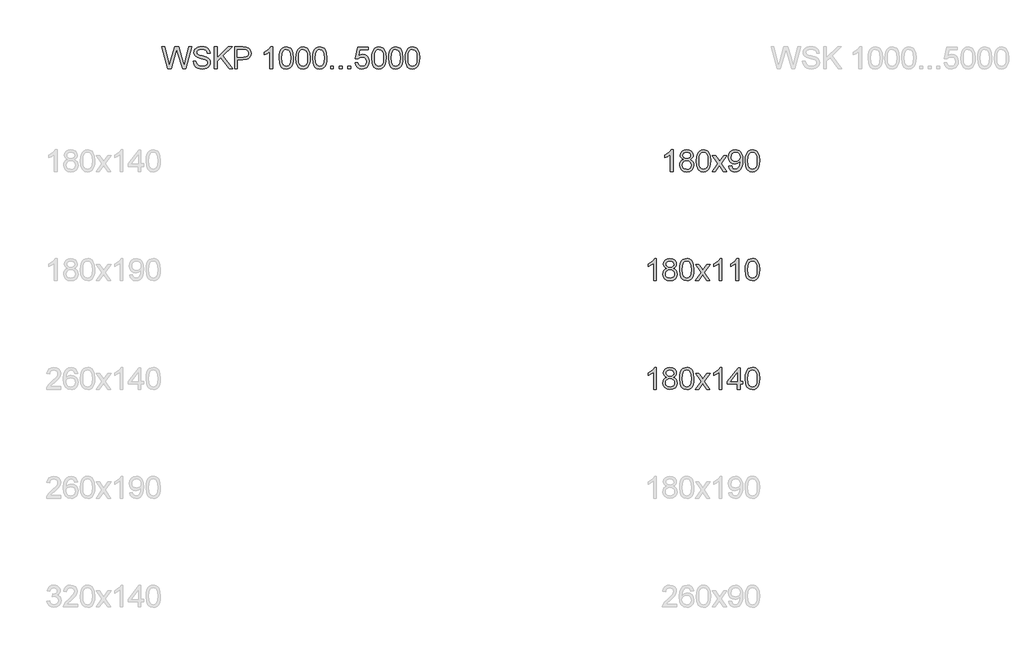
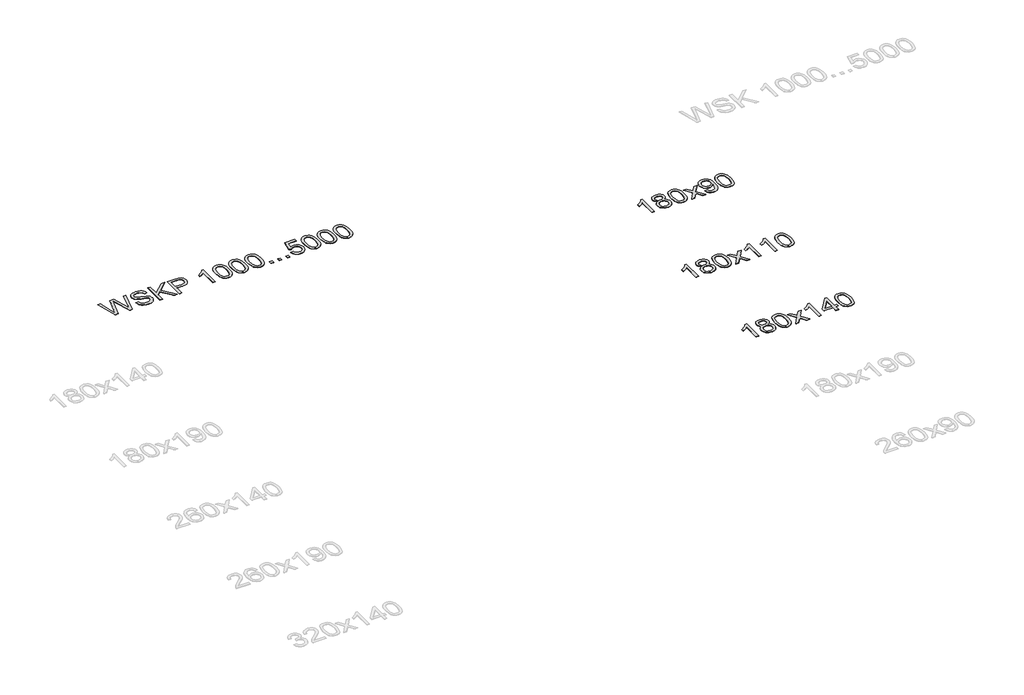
# One storey, part 16 of 17: 4 proxies.
"""IFC4 building model written with IfcOpenShell, lengths in millimetres."""

from ifc_helpers import new_model, si_unit, origin, origin_with_axes, place, context, project, spatial, polyline, outline, extrude, element, save

model = new_model("IFC4")

# Units and contexts
model_context = context("Model", 3, world=origin())
ifc_project = project(units=[si_unit("LENGTHUNIT", "METRE", prefix="MILLI")], contexts=[model_context])

# Site, building, storey
site = spatial("IfcSite", under=ifc_project)
building = spatial("IfcBuilding", under=site)
storey = spatial("IfcBuildingStorey", under=building, Name="Уровень 1", Elevation=0.0)

# Proxies
placement = place(None, origin())
element("IfcBuildingElementProxy", 1, Name="Текст модели 1", ObjectType="Текст модели 1", at=placement, inside=storey, context=model_context, shape_type="SweptSolid", body=[
    extrude(outline(polyline([(29868.1497282, 3491.7575298), (29813.3598364, 3692.6701501), (29839.2587288, 3692.6701501), (29871.0437332, 3560.6250392), (29880.8539197, 3519.8637142), (29891.3508193, 3555.9161497), (29931.1801767, 3692.6701501), (29968.5079365, 3692.6701501), (29997.4479867, 3593.5382151), (30018.9813462, 3519.8637142), (30028.4972271, 3559.4478169), (30060.5765371, 3692.6701501), (30086.4754296, 3692.6701501), (30031.6364868, 3491.7575298), (30004.8056266, 3491.7575298), (29956.6376107, 3646.7584771), (29949.917633, 3668.3899384), (29942.3637893, 3642.3438931), (29898.4632046, 3491.7575298), (29868.1497282, 3491.7575298)])), origin_with_axes(), (0.0, 0.0, 1.0), 2.0),
    extrude(outline(polyline([(30102.171728, 3560.821243), (30127.2858056, 3560.821243), (30135.3792095, 3535.68264), (30143.5094016, 3526.7921584), (30155.1467353, 3519.7901378), (30169.3715058, 3515.2467951), (30185.264008, 3513.7323476), (30211.506257, 3518.3186098), (30228.4533542, 3530.9246995), (30234.0206351, 3547.7736949), (30229.8513058, 3563.4454679), (30223.49921, 3569.6442795), (30212.7815813, 3574.8498097), (30176.2141109, 3584.4392671), (30136.8507374, 3596.8246276), (30124.348881, 3605.2736507), (30115.4890563, 3615.5130329), (30110.2099496, 3627.322045), (30108.4502474, 3640.4799577), (30110.6268826, 3655.1891061), (30117.156788, 3668.9049732), (30127.8682854, 3680.5300442), (30142.5896966, 3688.9668046), (30160.2602951, 3694.0987585), (30179.8193545, 3695.8094097), (30201.0093574, 3694.0190507), (30219.55061, 3688.6479736), (30234.7809246, 3679.806543), (30246.0381136, 3667.6051234), (30253.1627616, 3652.8040045), (30255.995453, 3636.1634756), (30230.8813754, 3636.1634756), (30226.2705877, 3651.1485355), (30216.6566049, 3661.9642662), (30201.6347568, 3668.5125657), (30180.8003731, 3670.6953322), (30159.4754802, 3668.5370912), (30144.8460395, 3662.0623681), (30136.3847536, 3652.5342244), (30133.564325, 3641.2157217), (30135.5631505, 3631.5649507), (30141.559627, 3623.8026406), (30155.7353465, 3616.8619336), (30182.5662067, 3609.7740738), (30227.0063517, 3597.1679841), (30241.3230927, 3588.0567734), (30251.3110889, 3576.811847), (30257.1788067, 3563.5558325), (30259.1347126, 3548.411357), (30256.8845011, 3532.9296564), (30250.1338665, 3518.3676607), (30239.1587203, 3505.8351474), (30224.234974, 3496.4418938), (30206.288464, 3490.574176), (30186.2450267, 3488.6182701), (30161.6398526, 3490.7274602), (30141.3879487, 3497.0550305), (30125.2563232, 3507.6255065), (30113.0119842, 3522.4634136), (30105.1515722, 3540.5386823), (30102.171728, 3560.821243)])), origin_with_axes(), (0.0, 0.0, 1.0), 2.0),
    extrude(outline(polyline([(30296.805829, 3491.7575298), (30296.805829, 3692.6701501), (30321.9199065, 3692.6701501), (30321.9199065, 3594.32303), (30424.9268651, 3692.6701501), (30460.0473329, 3692.6701501), (30373.5705386, 3610.0683794), (30463.1865926, 3491.7575298), (30432.4807088, 3491.7575298), (30355.76505, 3593.0967567), (30321.9199065, 3560.821243), (30321.9199065, 3491.7575298), (30296.805829, 3491.7575298)])), origin_with_axes(), (0.0, 0.0, 1.0), 2.0),
    extrude(outline(polyline([(30482.0221508, 3491.7575298), (30482.0221508, 3692.6701501), (30556.4814666, 3692.6701501), (30586.5006374, 3690.7571637), (30610.9034764, 3681.3639101), (30619.7755639, 3673.0375142), (30626.7224022, 3661.9397407), (30631.2105626, 3648.8492731), (30632.706616, 3634.5447948), (30628.6660454, 3610.8654571), (30616.5443337, 3591.1347194), (30606.8368475, 3583.3662779), (30593.8766714, 3577.8173912), (30558.1982493, 3573.3782817), (30507.1362283, 3573.3782817), (30507.1362283, 3491.7575298), (30482.0221508, 3491.7575298)]), holes=[polyline([(30507.1362283, 3598.4923593), (30559.6697772, 3598.4923593), (30581.9389007, 3600.7977531), (30596.6541805, 3607.7139346), (30604.857949, 3618.8117082), (30607.5925385, 3633.661878), (30605.9799891, 3644.9435925), (30601.1423408, 3654.4594735), (30593.6804677, 3661.6209097), (30584.1952436, 3665.8392899), (30559.081166, 3667.5560725), (30507.1362283, 3667.5560725), (30507.1362283, 3598.4923593)])]), origin_with_axes(), (0.0, 0.0, 1.0), 2.0),
    extrude(outline(polyline([(30830.4799766, 3491.7575298), (30805.3658991, 3491.7575298), (30805.3658991, 3648.3281069), (30781.5761967, 3631.3810097), (30755.137744, 3618.7013436), (30755.137744, 3642.441995), (30791.950469, 3665.9373917), (30805.4210814, 3679.5122374), (30814.2931688, 3692.6701501), (30830.4799766, 3692.6701501), (30830.4799766, 3491.7575298)])), origin_with_axes(), (0.0, 0.0, 1.0), 2.0),
    extrude(outline(polyline([(30890.1259108, 3590.5951591), (30891.9714521, 3622.7541769), (30897.5080761, 3648.4016833), (30906.6806006, 3667.9300859), (30919.4338431, 3681.7317921), (30935.8597741, 3689.9355606), (30956.0503643, 3692.6701501), (30971.5259336, 3691.0514693), (30985.3828221, 3686.1954269), (30996.9711049, 3678.2920954), (31005.6408573, 3667.531547), (31017.4130811, 3637.8066818), (31021.9748178, 3590.5951591), (31020.1476706, 3558.6200824), (31014.6662289, 3533.0338896), (31005.5488868, 3513.4870929), (30992.8140384, 3499.6302044), (30976.3513191, 3491.3712537), (30956.0503643, 3488.6182701), (30929.9552681, 3493.400736), (30910.1386913, 3507.7481338), (30901.3830998, 3522.8772809), (30895.1291059, 3541.7281674), (30890.1259108, 3590.5951591)]), holes=[polyline([(30915.2399883, 3590.6442101), (30918.1830443, 3551.1398151), (30927.0122122, 3528.2759491), (30940.1578621, 3517.368248), (30956.0503643, 3513.7323476), (30971.9428665, 3517.3805107), (30985.0885165, 3528.3250001), (30993.9176843, 3551.2011288), (30996.8607403, 3590.6442101), (30994.0157862, 3629.2595568), (30985.4809239, 3652.3012324), (30972.3597994, 3663.7423625), (30955.7560587, 3667.5560725), (30940.0352348, 3664.1960836), (30927.4046196, 3654.116117), (30918.2811461, 3629.6397015), (30915.2399883, 3590.6442101)])]), origin_with_axes(), (0.0, 0.0, 1.0), 2.0),
    extrude(outline(polyline([(31043.9496357, 3590.5951591), (31045.795177, 3622.7541769), (31051.3318011, 3648.4016833), (31060.5043255, 3667.9300859), (31073.257568, 3681.7317921), (31089.6834991, 3689.9355606), (31109.8740892, 3692.6701501), (31125.3496585, 3691.0514693), (31139.206547, 3686.1954269), (31150.7948298, 3678.2920954), (31159.4645822, 3667.531547), (31171.236806, 3637.8066818), (31175.7985428, 3590.5951591), (31173.9713955, 3558.6200824), (31168.4899538, 3533.0338896), (31159.3726117, 3513.4870929), (31146.6377633, 3499.6302044), (31130.175044, 3491.3712537), (31109.8740892, 3488.6182701), (31083.778993, 3493.400736), (31063.9624162, 3507.7481338), (31055.2068247, 3522.8772809), (31048.9528308, 3541.7281674), (31043.9496357, 3590.5951591)]), holes=[polyline([(31069.0637132, 3590.6442101), (31072.0067692, 3551.1398151), (31080.8359371, 3528.2759491), (31093.981587, 3517.368248), (31109.8740892, 3513.7323476), (31125.7665914, 3517.3805107), (31138.9122414, 3528.3250001), (31147.7414093, 3551.2011288), (31150.6844652, 3590.6442101), (31147.8395111, 3629.2595568), (31139.3046488, 3652.3012324), (31126.1835243, 3663.7423625), (31109.5797836, 3667.5560725), (31093.8589597, 3664.1960836), (31081.2283445, 3654.116117), (31072.1048711, 3629.6397015), (31069.0637132, 3590.6442101)])]), origin_with_axes(), (0.0, 0.0, 1.0), 2.0),
    extrude(outline(polyline([(31197.7733606, 3590.5951591), (31199.6189019, 3622.7541769), (31205.155526, 3648.4016833), (31214.3280504, 3667.9300859), (31227.0812929, 3681.7317921), (31243.507224, 3689.9355606), (31263.6978141, 3692.6701501), (31279.1733834, 3691.0514693), (31293.0302719, 3686.1954269), (31304.6185547, 3678.2920954), (31313.2883071, 3667.531547), (31325.0605309, 3637.8066818), (31329.6222677, 3590.5951591), (31327.7951204, 3558.6200824), (31322.3136787, 3533.0338896), (31313.1963366, 3513.4870929), (31300.4614882, 3499.6302044), (31283.9987689, 3491.3712537), (31263.6978141, 3488.6182701), (31237.602718, 3493.400736), (31217.7861411, 3507.7481338), (31209.0305497, 3522.8772809), (31202.7765557, 3541.7281674), (31197.7733606, 3590.5951591)]), holes=[polyline([(31222.8874381, 3590.6442101), (31225.8304941, 3551.1398151), (31234.659662, 3528.2759491), (31247.805312, 3517.368248), (31263.6978141, 3513.7323476), (31279.5903163, 3517.3805107), (31292.7359663, 3528.3250001), (31301.5651342, 3551.2011288), (31304.5081901, 3590.6442101), (31301.663236, 3629.2595568), (31293.1283738, 3652.3012324), (31280.0072493, 3663.7423625), (31263.4035085, 3667.5560725), (31247.6826846, 3664.1960836), (31235.0520695, 3654.116117), (31225.928596, 3629.6397015), (31222.8874381, 3590.6442101)])]), origin_with_axes(), (0.0, 0.0, 1.0), 2.0),
    extrude(outline(polyline([(31364.1541243, 3491.7575298), (31364.1541243, 3516.8716073), (31389.2682018, 3516.8716073), (31389.2682018, 3491.7575298), (31364.1541243, 3491.7575298)])), origin_with_axes(), (0.0, 0.0, 1.0), 2.0),
    extrude(outline(polyline([(31442.6356166, 3491.7575298), (31442.6356166, 3516.8716073), (31467.7496941, 3516.8716073), (31467.7496941, 3491.7575298), (31442.6356166, 3491.7575298)])), origin_with_axes(), (0.0, 0.0, 1.0), 2.0),
    extrude(outline(polyline([(31521.1171089, 3491.7575298), (31521.1171089, 3516.8716073), (31546.2311864, 3516.8716073), (31546.2311864, 3491.7575298), (31521.1171089, 3491.7575298)])), origin_with_axes(), (0.0, 0.0, 1.0), 2.0),
    extrude(outline(polyline([(31587.0415624, 3545.1249445), (31612.15564, 3548.2642042), (31616.7664276, 3533.1871738), (31624.8107806, 3522.3898372), (31636.2519107, 3515.89672), (31651.0530296, 3513.7323476), (31669.0547219, 3516.7428486), (31682.5437284, 3525.7743516), (31690.9682261, 3539.7845242), (31693.776392, 3557.7310342), (31691.1460357, 3574.6290805), (31683.2549669, 3587.5540013), (31670.0418719, 3595.7577698), (31651.4454371, 3598.4923593), (31629.3970428, 3594.1268263), (31615.2948997, 3582.7960608), (31590.1808221, 3585.9353205), (31612.15564, 3689.5308904), (31709.4726904, 3689.5308904), (31709.4726904, 3664.4168128), (31632.4627261, 3664.4168128), (31621.7205718, 3609.0873607), (31639.6609505, 3619.9766678), (31658.4597204, 3623.6064368), (31681.9244604, 3619.1060137), (31701.403812, 3605.6047445), (31714.5188051, 3585.0278783), (31718.8904695, 3559.3006641), (31714.9541322, 3534.1865865), (31703.1451201, 3512.702278), (31692.7095342, 3502.1655245), (31680.5326401, 3494.639272), (31666.614438, 3490.1235206), (31650.9549277, 3488.6182701), (31626.28844, 3492.4871624), (31606.63741, 3504.0938393), (31593.1667977, 3522.0894003), (31587.0415624, 3545.1249445)])), origin_with_axes(), (0.0, 0.0, 1.0), 2.0),
    extrude(outline(polyline([(31740.8652874, 3590.5951591), (31742.7108287, 3622.7541769), (31748.2474527, 3648.4016833), (31757.4199771, 3667.9300859), (31770.1732196, 3681.7317921), (31786.5991507, 3689.9355606), (31806.7897409, 3692.6701501), (31822.2653102, 3691.0514693), (31836.1221986, 3686.1954269), (31847.7104815, 3678.2920954), (31856.3802338, 3667.531547), (31868.1524577, 3637.8066818), (31872.7141944, 3590.5951591), (31870.8870472, 3558.6200824), (31865.4056055, 3533.0338896), (31856.2882633, 3513.4870929), (31843.5534149, 3499.6302044), (31827.0906957, 3491.3712537), (31806.7897409, 3488.6182701), (31780.6946447, 3493.400736), (31760.8780679, 3507.7481338), (31752.1224764, 3522.8772809), (31745.8684825, 3541.7281674), (31740.8652874, 3590.5951591)]), holes=[polyline([(31765.9793649, 3590.6442101), (31768.9224209, 3551.1398151), (31777.7515887, 3528.2759491), (31790.8972387, 3517.368248), (31806.7897409, 3513.7323476), (31822.6822431, 3517.3805107), (31835.827893, 3528.3250001), (31844.6570609, 3551.2011288), (31847.6001169, 3590.6442101), (31844.7551628, 3629.2595568), (31836.2203005, 3652.3012324), (31823.099176, 3663.7423625), (31806.4954353, 3667.5560725), (31790.7746114, 3664.1960836), (31778.1439962, 3654.116117), (31769.0205227, 3629.6397015), (31765.9793649, 3590.6442101)])]), origin_with_axes(), (0.0, 0.0, 1.0), 2.0),
    extrude(outline(polyline([(31894.6890123, 3590.5951591), (31896.5345536, 3622.7541769), (31902.0711776, 3648.4016833), (31911.2437021, 3667.9300859), (31923.9969446, 3681.7317921), (31940.4228756, 3689.9355606), (31960.6134658, 3692.6701501), (31976.0890351, 3691.0514693), (31989.9459236, 3686.1954269), (32001.5342064, 3678.2920954), (32010.2039588, 3667.531547), (32021.9761826, 3637.8066818), (32026.5379193, 3590.5951591), (32024.7107721, 3558.6200824), (32019.2293304, 3533.0338896), (32010.1119883, 3513.4870929), (31997.3771399, 3499.6302044), (31980.9144206, 3491.3712537), (31960.6134658, 3488.6182701), (31934.5183696, 3493.400736), (31914.7017928, 3507.7481338), (31905.9462013, 3522.8772809), (31899.6922074, 3541.7281674), (31894.6890123, 3590.5951591)]), holes=[polyline([(31919.8030898, 3590.6442101), (31922.7461458, 3551.1398151), (31931.5753137, 3528.2759491), (31944.7209636, 3517.368248), (31960.6134658, 3513.7323476), (31976.505968, 3517.3805107), (31989.651618, 3528.3250001), (31998.4807858, 3551.2011288), (32001.4238418, 3590.6442101), (31998.5788877, 3629.2595568), (31990.0440254, 3652.3012324), (31976.9229009, 3663.7423625), (31960.3191602, 3667.5560725), (31944.5983363, 3664.1960836), (31931.9677211, 3654.116117), (31922.8442476, 3629.6397015), (31919.8030898, 3590.6442101)])]), origin_with_axes(), (0.0, 0.0, 1.0), 2.0),
    extrude(outline(polyline([(32048.5127372, 3590.5951591), (32050.3582785, 3622.7541769), (32055.8949026, 3648.4016833), (32065.067427, 3667.9300859), (32077.8206695, 3681.7317921), (32094.2466006, 3689.9355606), (32114.4371907, 3692.6701501), (32129.91276, 3691.0514693), (32143.7696485, 3686.1954269), (32155.3579313, 3678.2920954), (32164.0276837, 3667.531547), (32175.7999075, 3637.8066818), (32180.3616443, 3590.5951591), (32178.534497, 3558.6200824), (32173.0530553, 3533.0338896), (32163.9357132, 3513.4870929), (32151.2008648, 3499.6302044), (32134.7381455, 3491.3712537), (32114.4371907, 3488.6182701), (32088.3420945, 3493.400736), (32068.5255177, 3507.7481338), (32059.7699262, 3522.8772809), (32053.5159323, 3541.7281674), (32048.5127372, 3590.5951591)]), holes=[polyline([(32073.6268147, 3590.6442101), (32076.5698707, 3551.1398151), (32085.3990386, 3528.2759491), (32098.5446885, 3517.368248), (32114.4371907, 3513.7323476), (32130.3296929, 3517.3805107), (32143.4753429, 3528.3250001), (32152.3045108, 3551.2011288), (32155.2475667, 3590.6442101), (32152.4026126, 3629.2595568), (32143.8677503, 3652.3012324), (32130.7466258, 3663.7423625), (32114.1428851, 3667.5560725), (32098.4220612, 3664.1960836), (32085.791446, 3654.116117), (32076.6679726, 3629.6397015), (32073.6268147, 3590.6442101)])]), origin_with_axes(), (0.0, 0.0, 1.0), 2.0),
])
element("IfcBuildingElementProxy", 2, Name="Текст модели 1", ObjectType="Текст модели 1", at=placement, inside=storey, context=model_context, shape_type="SweptSolid", body=[
    extrude(outline(polyline([(34352.7463706, 546.7575298), (34327.632293, 546.7575298), (34327.632293, 703.3281069), (34303.8425907, 686.3810097), (34277.4041379, 673.7013436), (34277.4041379, 697.441995), (34314.2168629, 720.9373917), (34327.6874753, 734.5122374), (34336.5595628, 747.6701501), (34352.7463706, 747.6701501), (34352.7463706, 546.7575298)])), origin_with_axes(), (0.0, 0.0, 1.0), 2.0),
    extrude(outline(polyline([(34448.9843005, 657.4164339), (34435.5382136, 664.0383098), (34426.1020404, 673.0146305), (34420.5286282, 684.161455), (34418.6708241, 697.2948422), (34422.717526, 716.927478), (34434.8576319, 733.151074), (34453.7299782, 744.040381), (34477.9734017, 747.6701501), (34502.363978, 743.9545419), (34521.481579, 732.8077174), (34533.842414, 716.3266041), (34537.9626924, 696.6081291), (34536.1294138, 683.8978062), (34530.629578, 672.9410541), (34521.4018712, 664.0199157), (34508.38498, 657.4164339), (34523.8421551, 649.4517887), (34535.0932128, 637.7224844), (34541.954212, 622.7926068), (34544.2412118, 605.2262415), (34539.7040005, 581.21581), (34526.0923667, 561.3747077), (34505.074042, 548.0573795), (34478.3167582, 543.6182701), (34451.5594745, 548.0757736), (34430.5411498, 561.4482841), (34416.929516, 581.4794587), (34412.3923047, 605.9129546), (34414.7712749, 624.1599015), (34421.9081856, 639.1694869), (34433.4351548, 650.426676), (34448.9843005, 657.4164339)]), holes=[polyline([(34443.7849016, 696.5590782), (34446.0105877, 685.5961947), (34452.6876459, 676.8406032), (34463.6198725, 671.1016441), (34478.6110638, 669.1886577), (34493.2527672, 671.0893814), (34504.019447, 676.7915523), (34510.6413229, 685.2528382), (34512.8486149, 695.4309067), (34510.5677465, 705.9952514), (34503.7251414, 714.7324487), (34492.8113088, 720.6001666), (34478.3167582, 722.5560725), (34463.7302371, 720.6430861), (34452.8347987, 714.904127), (34446.0473759, 706.4918921), (34443.7849016, 696.5590782)]), polyline([(34437.5063822, 606.7958714), (34441.700237, 587.8867368), (34447.5066411, 579.7749388), (34456.5381441, 573.7355427), (34478.512962, 568.7323476), (34495.607212, 571.3627039), (34508.4340309, 579.2537727), (34516.4538584, 591.2038061), (34519.1271342, 606.0110564), (34516.3680193, 621.0696928), (34508.0906744, 633.283375), (34494.9695499, 641.3767789), (34477.6790961, 644.0745802), (34460.8239694, 641.4135671), (34448.1259092, 633.4305278), (34440.161264, 621.4498375), (34437.5063822, 606.7958714)])]), origin_with_axes(), (0.0, 0.0, 1.0), 2.0),
    extrude(outline(polyline([(34566.2160296, 645.5951591), (34568.061571, 677.7541769), (34573.598195, 703.4016833), (34582.7707194, 722.9300859), (34595.5239619, 736.7317921), (34611.949893, 744.9355606), (34632.1404832, 747.6701501), (34647.6160524, 746.0514693), (34661.4729409, 741.1954269), (34673.0612238, 733.2920954), (34681.7309761, 722.531547), (34693.5032, 692.8066818), (34698.0649367, 645.5951591), (34696.2377894, 613.6200824), (34690.7563477, 588.0338896), (34681.6390056, 568.4870929), (34668.9041572, 554.6302044), (34652.4414379, 546.3712537), (34632.1404832, 543.6182701), (34606.045387, 548.400736), (34586.2288102, 562.7481338), (34577.4732187, 577.8772809), (34571.2192248, 596.7281674), (34566.2160296, 645.5951591)]), holes=[polyline([(34591.3301072, 645.6442101), (34594.2731631, 606.1398151), (34603.102331, 583.2759491), (34616.247981, 572.368248), (34632.1404832, 568.7323476), (34648.0329853, 572.3805107), (34661.1786353, 583.3250001), (34670.0078032, 606.2011288), (34672.9508592, 645.6442101), (34670.1059051, 684.2595568), (34661.5710428, 707.3012324), (34648.4499183, 718.7423625), (34631.8461776, 722.5560725), (34616.1253536, 719.1960836), (34603.4947385, 709.116117), (34594.371265, 684.6397015), (34591.3301072, 645.6442101)])]), origin_with_axes(), (0.0, 0.0, 1.0), 2.0),
    extrude(outline(polyline([(34710.6219755, 546.7575298), (34764.2836958, 620.92254), (34713.7612352, 694.3027353), (34743.9766097, 694.3027353), (34768.3549232, 658.9860637), (34779.7347396, 642.3087466), (34789.5939771, 655.9449059), (34817.356805, 694.3027353), (34847.5721795, 694.3027353), (34794.4990704, 620.92254), (34845.6101422, 546.7575298), (34815.3947677, 546.7575298), (34784.6398329, 591.3448276), (34778.9989756, 599.4872824), (34740.83735, 546.7575298), (34710.6219755, 546.7575298)])), origin_with_axes(), (0.0, 0.0, 1.0), 2.0),
    extrude(outline(polyline([(34955.4842314, 546.7575298), (34930.3701539, 546.7575298), (34930.3701539, 703.3281069), (34906.5804516, 686.3810097), (34880.1419988, 673.7013436), (34880.1419988, 697.441995), (34916.9547238, 720.9373917), (34930.4253362, 734.5122374), (34939.2974237, 747.6701501), (34955.4842314, 747.6701501), (34955.4842314, 546.7575298)])), origin_with_axes(), (0.0, 0.0, 1.0), 2.0),
    extrude(outline(polyline([(35096.7509176, 546.7575298), (35096.7509176, 593.8464251), (35005.7123865, 593.8464251), (35005.7123865, 618.9605027), (35103.029437, 744.5308904), (35121.8649951, 744.5308904), (35121.8649951, 618.9605027), (35146.9790727, 618.9605027), (35146.9790727, 593.8464251), (35121.8649951, 593.8464251), (35121.8649951, 546.7575298), (35096.7509176, 546.7575298)]), holes=[polyline([(35096.7509176, 618.9605027), (35096.7509176, 696.5590782), (35036.6144741, 618.9605027), (35096.7509176, 618.9605027)])]), origin_with_axes(), (0.0, 0.0, 1.0), 2.0),
    extrude(outline(polyline([(35168.9538905, 645.5951591), (35170.7994319, 677.7541769), (35176.3360559, 703.4016833), (35185.5085803, 722.9300859), (35198.2618228, 736.7317921), (35214.6877539, 744.9355606), (35234.8783441, 747.6701501), (35250.3539133, 746.0514693), (35264.2108018, 741.1954269), (35275.7990847, 733.2920954), (35284.468837, 722.531547), (35296.2410608, 692.8066818), (35300.8027976, 645.5951591), (35298.9756503, 613.6200824), (35293.4942086, 588.0338896), (35284.3768665, 568.4870929), (35271.6420181, 554.6302044), (35255.1792988, 546.3712537), (35234.8783441, 543.6182701), (35208.7832479, 548.400736), (35188.9666711, 562.7481338), (35180.2110796, 577.8772809), (35173.9570857, 596.7281674), (35168.9538905, 645.5951591)]), holes=[polyline([(35194.0679681, 645.6442101), (35197.011024, 606.1398151), (35205.8401919, 583.2759491), (35218.9858419, 572.368248), (35234.8783441, 568.7323476), (35250.7708462, 572.3805107), (35263.9164962, 583.3250001), (35272.7456641, 606.2011288), (35275.6887201, 645.6442101), (35272.843766, 684.2595568), (35264.3089037, 707.3012324), (35251.1877792, 718.7423625), (35234.5840385, 722.5560725), (35218.8632145, 719.1960836), (35206.2325994, 709.116117), (35197.1091259, 684.6397015), (35194.0679681, 645.6442101)])]), origin_with_axes(), (0.0, 0.0, 1.0), 2.0),
])
element("IfcBuildingElementProxy", 3, Name="Текст модели 1", ObjectType="Текст модели 1", at=placement, inside=storey, context=model_context, shape_type="SweptSolid", body=[
    extrude(outline(polyline([(34506.5700955, 2546.7575298), (34481.4560179, 2546.7575298), (34481.4560179, 2703.3281069), (34457.6663156, 2686.3810097), (34431.2278629, 2673.7013436), (34431.2278629, 2697.441995), (34468.0405878, 2720.9373917), (34481.5112002, 2734.5122374), (34490.3832877, 2747.6701501), (34506.5700955, 2747.6701501), (34506.5700955, 2546.7575298)])), origin_with_axes(), (0.0, 0.0, 1.0), 2.0),
    extrude(outline(polyline([(34602.8080254, 2657.4164339), (34589.3619385, 2664.0383098), (34579.9257653, 2673.0146305), (34574.3523531, 2684.161455), (34572.494549, 2697.2948422), (34576.541251, 2716.927478), (34588.6813568, 2733.151074), (34607.5537031, 2744.040381), (34631.7971266, 2747.6701501), (34656.1877029, 2743.9545419), (34675.3053039, 2732.8077174), (34687.666139, 2716.3266041), (34691.7864173, 2696.6081291), (34689.9531387, 2683.8978062), (34684.4533029, 2672.9410541), (34675.2255962, 2664.0199157), (34662.2087049, 2657.4164339), (34677.6658801, 2649.4517887), (34688.9169377, 2637.7224844), (34695.777937, 2622.7926068), (34698.0649367, 2605.2262415), (34693.5277254, 2581.21581), (34679.9160916, 2561.3747077), (34658.8977669, 2548.0573795), (34632.1404832, 2543.6182701), (34605.3831994, 2548.0757736), (34584.3648747, 2561.4482841), (34570.7532409, 2581.4794587), (34566.2160296, 2605.9129546), (34568.5949999, 2624.1599015), (34575.7319106, 2639.1694869), (34587.2588797, 2650.426676), (34602.8080254, 2657.4164339)]), holes=[polyline([(34597.6086265, 2696.5590782), (34599.8343126, 2685.5961947), (34606.5113708, 2676.8406032), (34617.4435974, 2671.1016441), (34632.4347888, 2669.1886577), (34647.0764922, 2671.0893814), (34657.8431719, 2676.7915523), (34664.4650478, 2685.2528382), (34666.6723398, 2695.4309067), (34664.3914714, 2705.9952514), (34657.5488663, 2714.7324487), (34646.6350338, 2720.6001666), (34632.1404832, 2722.5560725), (34617.553962, 2720.6430861), (34606.6585236, 2714.904127), (34599.8711008, 2706.4918921), (34597.6086265, 2696.5590782)]), polyline([(34591.3301072, 2606.7958714), (34595.5239619, 2587.8867368), (34601.3303661, 2579.7749388), (34610.361869, 2573.7355427), (34632.3366869, 2568.7323476), (34649.4309369, 2571.3627039), (34662.2577558, 2579.2537727), (34670.2775833, 2591.2038061), (34672.9508592, 2606.0110564), (34670.1917442, 2621.0696928), (34661.9143993, 2633.283375), (34648.7932748, 2641.3767789), (34631.502821, 2644.0745802), (34614.6476943, 2641.4135671), (34601.9496341, 2633.4305278), (34593.9849889, 2621.4498375), (34591.3301072, 2606.7958714)])]), origin_with_axes(), (0.0, 0.0, 1.0), 2.0),
    extrude(outline(polyline([(34720.0397545, 2645.5951591), (34721.8852959, 2677.7541769), (34727.4219199, 2703.4016833), (34736.5944443, 2722.9300859), (34749.3476868, 2736.7317921), (34765.7736179, 2744.9355606), (34785.9642081, 2747.6701501), (34801.4397773, 2746.0514693), (34815.2966658, 2741.1954269), (34826.8849487, 2733.2920954), (34835.554701, 2722.531547), (34847.3269249, 2692.8066818), (34851.8886616, 2645.5951591), (34850.0615144, 2613.6200824), (34844.5800726, 2588.0338896), (34835.4627305, 2568.4870929), (34822.7278821, 2554.6302044), (34806.2651628, 2546.3712537), (34785.9642081, 2543.6182701), (34759.8691119, 2548.400736), (34740.0525351, 2562.7481338), (34731.2969436, 2577.8772809), (34725.0429497, 2596.7281674), (34720.0397545, 2645.5951591)]), holes=[polyline([(34745.1538321, 2645.6442101), (34748.096888, 2606.1398151), (34756.9260559, 2583.2759491), (34770.0717059, 2572.368248), (34785.9642081, 2568.7323476), (34801.8567103, 2572.3805107), (34815.0023602, 2583.3250001), (34823.8315281, 2606.2011288), (34826.7745841, 2645.6442101), (34823.92963, 2684.2595568), (34815.3947677, 2707.3012324), (34802.2736432, 2718.7423625), (34785.6699025, 2722.5560725), (34769.9490785, 2719.1960836), (34757.3184634, 2709.116117), (34748.1949899, 2684.6397015), (34745.1538321, 2645.6442101)])]), origin_with_axes(), (0.0, 0.0, 1.0), 2.0),
    extrude(outline(polyline([(34864.4457004, 2546.7575298), (34918.1074207, 2620.92254), (34867.5849601, 2694.3027353), (34897.8003346, 2694.3027353), (34922.1786482, 2658.9860637), (34933.5584645, 2642.3087466), (34943.417702, 2655.9449059), (34971.1805299, 2694.3027353), (35001.3959044, 2694.3027353), (34948.3227953, 2620.92254), (34999.4338671, 2546.7575298), (34969.2184926, 2546.7575298), (34938.4635578, 2591.3448276), (34932.8227005, 2599.4872824), (34894.6610749, 2546.7575298), (34864.4457004, 2546.7575298)])), origin_with_axes(), (0.0, 0.0, 1.0), 2.0),
    extrude(outline(polyline([(35018.2694253, 2596.9856848), (35043.3835028, 2600.1249445), (35047.6754594, 2585.8695172), (35054.6652173, 2576.1635639), (35064.1810983, 2570.5901517), (35076.051424, 2568.7323476), (35096.3830356, 2573.5148135), (35110.1663477, 2586.2925815), (35118.3823789, 2608.1202465), (35122.0121479, 2637.2565006), (35121.8649951, 2642.1615938), (35113.1645859, 2631.5420669), (35101.7786382, 2623.129832), (35088.528755, 2617.6483902), (35074.2365395, 2615.821243), (35051.3358853, 2620.2848779), (35032.2734666, 2633.6757825), (35019.4159908, 2654.3630133), (35015.1301656, 2680.7156269), (35019.6244573, 2707.9388946), (35033.1073324, 2729.2760503), (35053.3592363, 2743.0716251), (35078.1606141, 2747.6701501), (35096.891939, 2745.0459252), (35113.9432695, 2737.1732505), (35128.2048282, 2724.4445334), (35138.5668377, 2707.2521815), (35144.8760139, 2683.4870046), (35146.9790727, 2651.0398127), (35144.8821453, 2616.6367147), (35138.5913632, 2590.0449779), (35128.1619086, 2570.0628541), (35113.6489639, 2555.4885958), (35095.6779284, 2546.5858515), (35074.8742016, 2543.6182701), (35053.4021558, 2547.1192804), (35036.2711176, 2557.6223113), (35024.2904273, 2574.4651754), (35018.2694253, 2596.9856848)]), holes=[polyline([(35121.8649951, 2681.3042381), (35119.1549311, 2698.3249118), (35111.024739, 2711.4215108), (35098.4063866, 2719.7724321), (35082.2318415, 2722.5560725), (35065.4564225, 2719.5578343), (35052.016467, 2710.5631195), (35043.1872991, 2696.7982015), (35040.2442431, 2679.4893536), (35043.0278836, 2663.9708648), (35051.3788049, 2651.6529493), (35064.4876666, 2643.6147277), (35081.5451285, 2640.9353205), (35097.5909148, 2643.6147277), (35110.5097042, 2651.6529493), (35119.0261724, 2664.4245859), (35121.8649951, 2681.3042381)])]), origin_with_axes(), (0.0, 0.0, 1.0), 2.0),
    extrude(outline(polyline([(35168.9538905, 2645.5951591), (35170.7994319, 2677.7541769), (35176.3360559, 2703.4016833), (35185.5085803, 2722.9300859), (35198.2618228, 2736.7317921), (35214.6877539, 2744.9355606), (35234.8783441, 2747.6701501), (35250.3539133, 2746.0514693), (35264.2108018, 2741.1954269), (35275.7990847, 2733.2920954), (35284.468837, 2722.531547), (35296.2410608, 2692.8066818), (35300.8027976, 2645.5951591), (35298.9756503, 2613.6200824), (35293.4942086, 2588.0338896), (35284.3768665, 2568.4870929), (35271.6420181, 2554.6302044), (35255.1792988, 2546.3712537), (35234.8783441, 2543.6182701), (35208.7832479, 2548.400736), (35188.9666711, 2562.7481338), (35180.2110796, 2577.8772809), (35173.9570857, 2596.7281674), (35168.9538905, 2645.5951591)]), holes=[polyline([(35194.0679681, 2645.6442101), (35197.011024, 2606.1398151), (35205.8401919, 2583.2759491), (35218.9858419, 2572.368248), (35234.8783441, 2568.7323476), (35250.7708462, 2572.3805107), (35263.9164962, 2583.3250001), (35272.7456641, 2606.2011288), (35275.6887201, 2645.6442101), (35272.843766, 2684.2595568), (35264.3089037, 2707.3012324), (35251.1877792, 2718.7423625), (35234.5840385, 2722.5560725), (35218.8632145, 2719.1960836), (35206.2325994, 2709.116117), (35197.1091259, 2684.6397015), (35194.0679681, 2645.6442101)])]), origin_with_axes(), (0.0, 0.0, 1.0), 2.0),
])
element("IfcBuildingElementProxy", 4, Name="Текст модели 1", ObjectType="Текст модели 1", at=placement, inside=storey, context=model_context, shape_type="SweptSolid", body=[
    extrude(outline(polyline([(34352.7463706, 1546.7575298), (34327.632293, 1546.7575298), (34327.632293, 1703.3281069), (34303.8425907, 1686.3810097), (34277.4041379, 1673.7013436), (34277.4041379, 1697.441995), (34314.2168629, 1720.9373917), (34327.6874753, 1734.5122374), (34336.5595628, 1747.6701501), (34352.7463706, 1747.6701501), (34352.7463706, 1546.7575298)])), origin_with_axes(), (0.0, 0.0, 1.0), 2.0),
    extrude(outline(polyline([(34448.9843005, 1657.4164339), (34435.5382136, 1664.0383098), (34426.1020404, 1673.0146305), (34420.5286282, 1684.161455), (34418.6708241, 1697.2948422), (34422.717526, 1716.927478), (34434.8576319, 1733.151074), (34453.7299782, 1744.040381), (34477.9734017, 1747.6701501), (34502.363978, 1743.9545419), (34521.481579, 1732.8077174), (34533.842414, 1716.3266041), (34537.9626924, 1696.6081291), (34536.1294138, 1683.8978062), (34530.629578, 1672.9410541), (34521.4018712, 1664.0199157), (34508.38498, 1657.4164339), (34523.8421551, 1649.4517887), (34535.0932128, 1637.7224844), (34541.954212, 1622.7926068), (34544.2412118, 1605.2262415), (34539.7040005, 1581.21581), (34526.0923667, 1561.3747077), (34505.074042, 1548.0573795), (34478.3167582, 1543.6182701), (34451.5594745, 1548.0757736), (34430.5411498, 1561.4482841), (34416.929516, 1581.4794587), (34412.3923047, 1605.9129546), (34414.7712749, 1624.1599015), (34421.9081856, 1639.1694869), (34433.4351548, 1650.426676), (34448.9843005, 1657.4164339)]), holes=[polyline([(34443.7849016, 1696.5590782), (34446.0105877, 1685.5961947), (34452.6876459, 1676.8406032), (34463.6198725, 1671.1016441), (34478.6110638, 1669.1886577), (34493.2527672, 1671.0893814), (34504.019447, 1676.7915523), (34510.6413229, 1685.2528382), (34512.8486149, 1695.4309067), (34510.5677465, 1705.9952514), (34503.7251414, 1714.7324487), (34492.8113088, 1720.6001666), (34478.3167582, 1722.5560725), (34463.7302371, 1720.6430861), (34452.8347987, 1714.904127), (34446.0473759, 1706.4918921), (34443.7849016, 1696.5590782)]), polyline([(34437.5063822, 1606.7958714), (34441.700237, 1587.8867368), (34447.5066411, 1579.7749388), (34456.5381441, 1573.7355427), (34478.512962, 1568.7323476), (34495.607212, 1571.3627039), (34508.4340309, 1579.2537727), (34516.4538584, 1591.2038061), (34519.1271342, 1606.0110564), (34516.3680193, 1621.0696928), (34508.0906744, 1633.283375), (34494.9695499, 1641.3767789), (34477.6790961, 1644.0745802), (34460.8239694, 1641.4135671), (34448.1259092, 1633.4305278), (34440.161264, 1621.4498375), (34437.5063822, 1606.7958714)])]), origin_with_axes(), (0.0, 0.0, 1.0), 2.0),
    extrude(outline(polyline([(34566.2160296, 1645.5951591), (34568.061571, 1677.7541769), (34573.598195, 1703.4016833), (34582.7707194, 1722.9300859), (34595.5239619, 1736.7317921), (34611.949893, 1744.9355606), (34632.1404832, 1747.6701501), (34647.6160524, 1746.0514693), (34661.4729409, 1741.1954269), (34673.0612238, 1733.2920954), (34681.7309761, 1722.531547), (34693.5032, 1692.8066818), (34698.0649367, 1645.5951591), (34696.2377894, 1613.6200824), (34690.7563477, 1588.0338896), (34681.6390056, 1568.4870929), (34668.9041572, 1554.6302044), (34652.4414379, 1546.3712537), (34632.1404832, 1543.6182701), (34606.045387, 1548.400736), (34586.2288102, 1562.7481338), (34577.4732187, 1577.8772809), (34571.2192248, 1596.7281674), (34566.2160296, 1645.5951591)]), holes=[polyline([(34591.3301072, 1645.6442101), (34594.2731631, 1606.1398151), (34603.102331, 1583.2759491), (34616.247981, 1572.368248), (34632.1404832, 1568.7323476), (34648.0329853, 1572.3805107), (34661.1786353, 1583.3250001), (34670.0078032, 1606.2011288), (34672.9508592, 1645.6442101), (34670.1059051, 1684.2595568), (34661.5710428, 1707.3012324), (34648.4499183, 1718.7423625), (34631.8461776, 1722.5560725), (34616.1253536, 1719.1960836), (34603.4947385, 1709.116117), (34594.371265, 1684.6397015), (34591.3301072, 1645.6442101)])]), origin_with_axes(), (0.0, 0.0, 1.0), 2.0),
    extrude(outline(polyline([(34710.6219755, 1546.7575298), (34764.2836958, 1620.92254), (34713.7612352, 1694.3027353), (34743.9766097, 1694.3027353), (34768.3549232, 1658.9860637), (34779.7347396, 1642.3087466), (34789.5939771, 1655.9449059), (34817.356805, 1694.3027353), (34847.5721795, 1694.3027353), (34794.4990704, 1620.92254), (34845.6101422, 1546.7575298), (34815.3947677, 1546.7575298), (34784.6398329, 1591.3448276), (34778.9989756, 1599.4872824), (34740.83735, 1546.7575298), (34710.6219755, 1546.7575298)])), origin_with_axes(), (0.0, 0.0, 1.0), 2.0),
    extrude(outline(polyline([(34955.4842314, 1546.7575298), (34930.3701539, 1546.7575298), (34930.3701539, 1703.3281069), (34906.5804516, 1686.3810097), (34880.1419988, 1673.7013436), (34880.1419988, 1697.441995), (34916.9547238, 1720.9373917), (34930.4253362, 1734.5122374), (34939.2974237, 1747.6701501), (34955.4842314, 1747.6701501), (34955.4842314, 1546.7575298)])), origin_with_axes(), (0.0, 0.0, 1.0), 2.0),
    extrude(outline(polyline([(35109.3079564, 1546.7575298), (35084.1938788, 1546.7575298), (35084.1938788, 1703.3281069), (35060.4041765, 1686.3810097), (35033.9657238, 1673.7013436), (35033.9657238, 1697.441995), (35070.7784487, 1720.9373917), (35084.2490611, 1734.5122374), (35093.1211486, 1747.6701501), (35109.3079564, 1747.6701501), (35109.3079564, 1546.7575298)])), origin_with_axes(), (0.0, 0.0, 1.0), 2.0),
    extrude(outline(polyline([(35168.9538905, 1645.5951591), (35170.7994319, 1677.7541769), (35176.3360559, 1703.4016833), (35185.5085803, 1722.9300859), (35198.2618228, 1736.7317921), (35214.6877539, 1744.9355606), (35234.8783441, 1747.6701501), (35250.3539133, 1746.0514693), (35264.2108018, 1741.1954269), (35275.7990847, 1733.2920954), (35284.468837, 1722.531547), (35296.2410608, 1692.8066818), (35300.8027976, 1645.5951591), (35298.9756503, 1613.6200824), (35293.4942086, 1588.0338896), (35284.3768665, 1568.4870929), (35271.6420181, 1554.6302044), (35255.1792988, 1546.3712537), (35234.8783441, 1543.6182701), (35208.7832479, 1548.400736), (35188.9666711, 1562.7481338), (35180.2110796, 1577.8772809), (35173.9570857, 1596.7281674), (35168.9538905, 1645.5951591)]), holes=[polyline([(35194.0679681, 1645.6442101), (35197.011024, 1606.1398151), (35205.8401919, 1583.2759491), (35218.9858419, 1572.368248), (35234.8783441, 1568.7323476), (35250.7708462, 1572.3805107), (35263.9164962, 1583.3250001), (35272.7456641, 1606.2011288), (35275.6887201, 1645.6442101), (35272.843766, 1684.2595568), (35264.3089037, 1707.3012324), (35251.1877792, 1718.7423625), (35234.5840385, 1722.5560725), (35218.8632145, 1719.1960836), (35206.2325994, 1709.116117), (35197.1091259, 1684.6397015), (35194.0679681, 1645.6442101)])]), origin_with_axes(), (0.0, 0.0, 1.0), 2.0),
])

save(model, "model.ifc")
